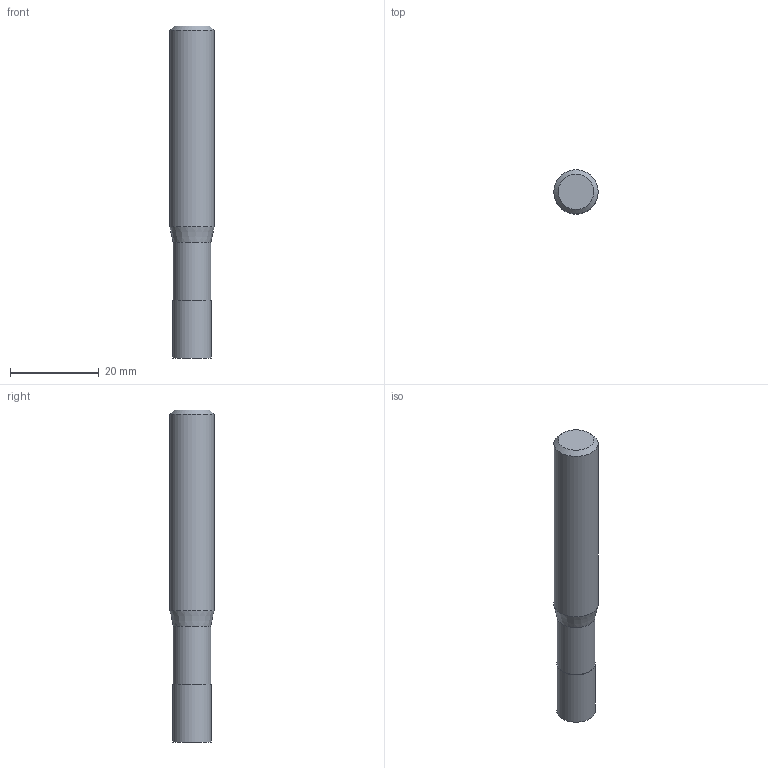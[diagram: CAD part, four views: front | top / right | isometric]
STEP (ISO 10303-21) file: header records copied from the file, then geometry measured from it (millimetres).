
FILE_DESCRIPTION((''),'2;1');
FILE_NAME('C:\Users\nsx150\AppData\Local\Temp\Mastercam 2021\EUJSUNXURU\TEMP.step','2021-04-22T10:29:35',(''),(''),'STEP Write','Mastercam 2021 ... CNC Software, Inc.','');
FILE_SCHEMA(('AUTOMOTIVE_DESIGN'));
Length unit declared in the file: millimetre
Products named in the file (1): None
Bounding box: 10 x 10 x 75 mm (x, y, z)
Volume: 5302.9 mm3; surface area: 2469.9 mm2
Topology: 2 solids, 2 shells, 9 faces, 12 edges, 7 vertices
Faces by surface type: plane 4, cylinder 3, cone 2
Full cylindrical faces by diameter (mm): 8.5 x1, 8.7 x1, 10 x1
Entity records: 211 total; most frequent: DIRECTION 36, CARTESIAN_POINT 25, AXIS2_PLACEMENT_3D 18, ORIENTED_EDGE 14, EDGE_LOOP 14, STYLED_ITEM 12, ADVANCED_FACE 9, FACE_BOUND 8
